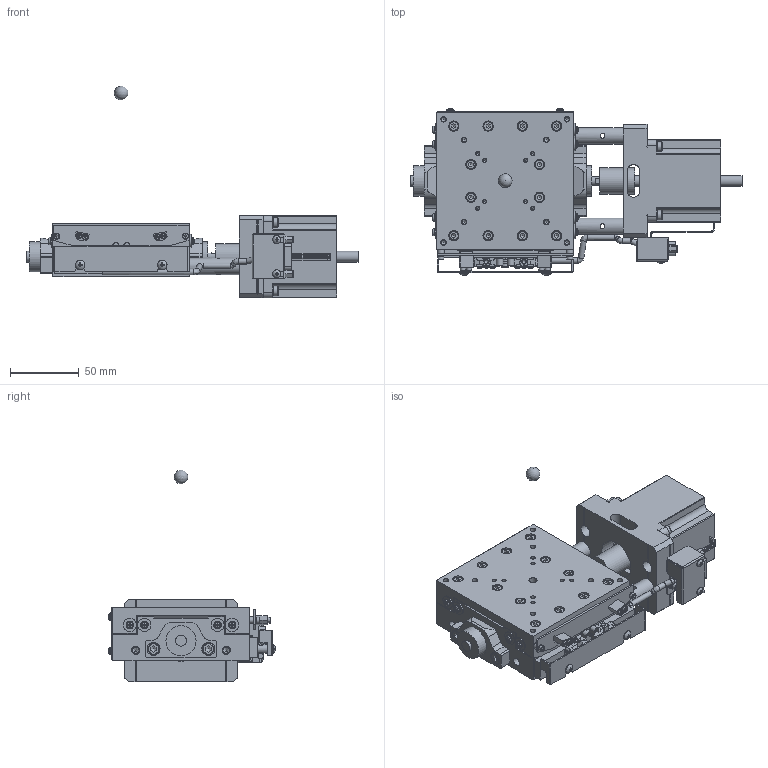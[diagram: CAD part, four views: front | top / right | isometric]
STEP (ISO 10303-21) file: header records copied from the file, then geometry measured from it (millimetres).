
FILE_DESCRIPTION( (''), '2;1');
FILE_NAME ('MVSA10A-RT01-R.stp','2025-02-07T09:38:59',(''),(''),'spGate 20.6.2 (****-****-****-****)','','');
FILE_SCHEMA (('AUTOMOTIVE_DESIGN'));
Length unit declared in the file: millimetre
Products named in the file (4): MVSA10A-RT01-R; rotation center; table; base
Assembly tree (3 placements, depth 2):
  MVSA10A-RT01-R
    rotation center
    table
    base
Bounding box: 242.3 x 121.67 x 154.5 mm (x, y, z)
Volume: 673830.1 mm3; surface area: 140961.7 mm2
Topology: 3 solids, 4 shells, 3101 faces, 8180 edges, 5289 vertices
Faces by surface type: plane 2134, cylinder 629, bspline 295, sphere 43
Full cylindrical faces by diameter (mm): 0.5 x9, 0.9 x15, 1 x9, 1.2 x18, 1.6 x2, 1.7 x9, 1.8 x18, 2 x35, 2.156 x2, 2.3 x1, 2.46 x10, 2.5 x2, 2.6 x2, 2.845 x6, 2.9 x1, 3 x16, 3.2 x2, 3.24 x8, 3.5 x2, 3.8 x4, 4 x30, 4.3 x4, 4.5 x9, 4.7 x2, 4.92 x2, 5 x3, 5.1 x1, 5.5 x17, 5.9 x2, 6 x13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
Entity records: 167073 total; most frequent: CARTESIAN_POINT 26680, ORIENTED_EDGE 16154, DIRECTION 15489, COLOUR_RGB 11181, PRESENTATION_STYLE_ASSIGNMENT 11181, STYLED_ITEM 11181, EDGE_CURVE 8077, DRAUGHTING_PRE_DEFINED_CURVE_FONT 8077
